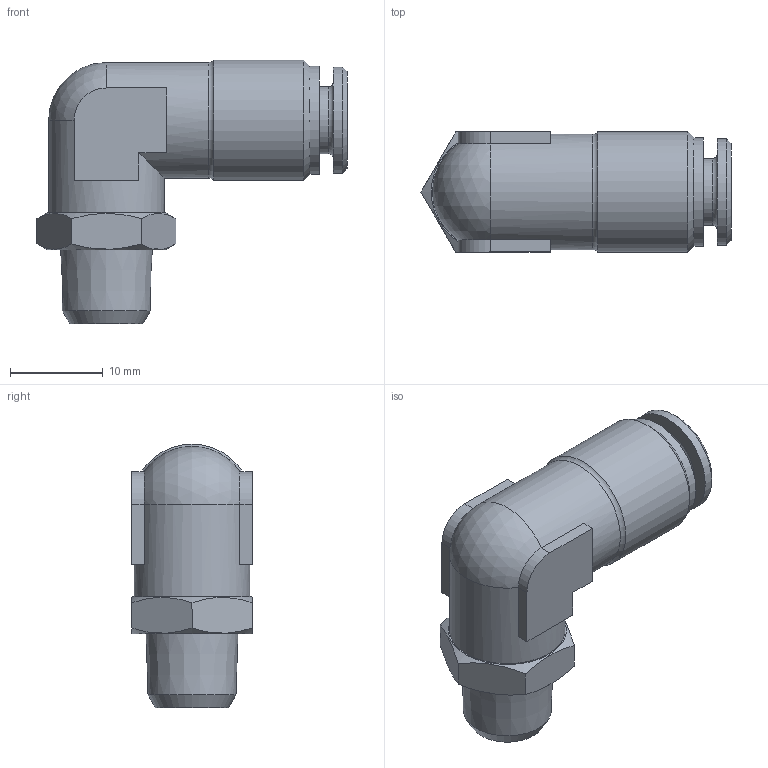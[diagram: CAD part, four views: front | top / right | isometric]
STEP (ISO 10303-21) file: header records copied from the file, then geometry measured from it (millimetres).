
FILE_DESCRIPTION(/* description */ (''),/* implementation_level */ '2;1');
FILE_NAME(/* name */ 'H220618_HDS_022K_6_1-8',/* time_stamp */ '2016-12-09T13:44:57+01:00',/* author */ (''),/* organization */ (''),/* preprocessor_version */ 'ST-DEVELOPER v16.5',/* originating_system */ 'HiCAD 2016 2102.0 Build 402',/* authorisation */ '');
FILE_SCHEMA (('AUTOMOTIVE_DESIGN { 1 0 10303 214 1 1 1 1 }'));
Length unit declared in the file: millimetre
Products named in the file (4): Root; DR6-C_HDX_25.07.16; RIVOLUZIONE_0; 540102-1
Assembly tree (3 placements, depth 2):
  Root
    DR6-C_HDX_25.07.16
    RIVOLUZIONE_0
    540102-1
Bounding box: 33.51 x 13 x 28.5 mm (x, y, z)
Volume: 4103.1 mm3; surface area: 4264.2 mm2
Topology: 3 solids, 3 shells, 76 faces, 161 edges, 98 vertices
Faces by surface type: plane 33, cylinder 20, cone 17, torus 5, sphere 1
Full cylindrical faces by diameter (mm): 4 x2, 6 x1, 6.2 x1, 6.3 x1, 7.2 x1, 9 x2, 9.9 x1, 10 x1, 10.1 x2, 10.3 x1, 11.5 x1, 11.7 x1, 12.5 x2, 13 x1
Entity records: 3179 total; most frequent: CARTESIAN_POINT 459, DIRECTION 350, PRESENTATION_STYLE_ASSIGNMENT 231, COLOUR_RGB 230, DRAUGHTING_PRE_DEFINED_CURVE_FONT 228, CURVE_STYLE 228, OVER_RIDING_STYLED_ITEM 228, ORIENTED_EDGE 228
